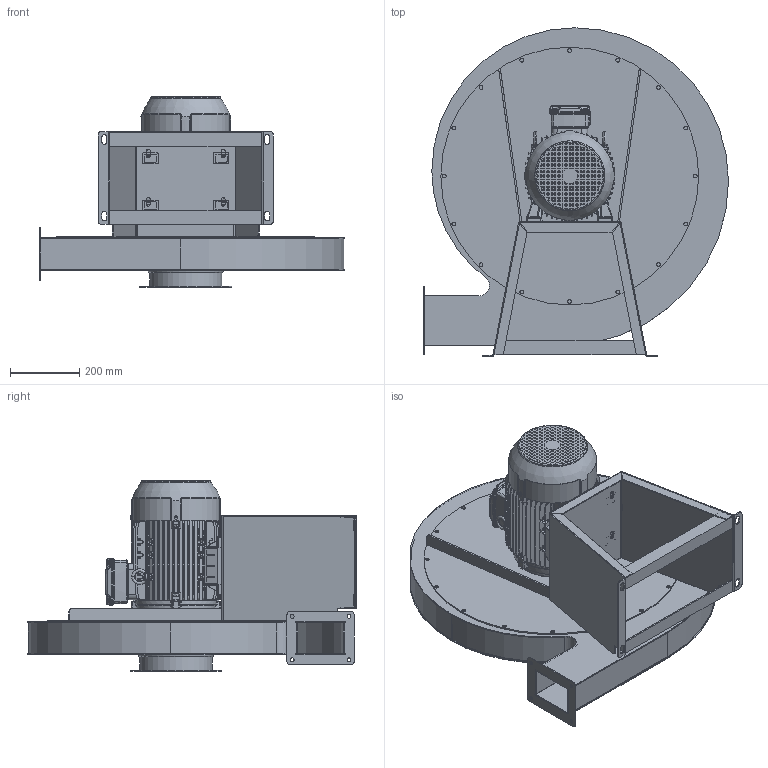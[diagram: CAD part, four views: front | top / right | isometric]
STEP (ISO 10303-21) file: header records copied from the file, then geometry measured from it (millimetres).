
FILE_DESCRIPTION((''),'2;1');
FILE_NAME('X:\CAD_3D\VENTILATORI DI SERIE\H\H70\H70 - 132 - RD270.stp','2016-10-11T15:20:05',('tecnico'),(''),'Autodesk Inventor 2012','Autodesk Inventor 2012','');
FILE_SCHEMA(('CONFIG_CONTROL_DESIGN'));
Length unit declared in the file: millimetre
Products named in the file (13): H70 - 132 - LG270; C1H70L; FB20873100; FH700A1; FH700M1; SQ1H700; CL1H7012; FL1H700; D172408016; SE1H700132; 132S_TOP; AN40404436; PT355445
Assembly tree (14 placements, depth 3):
  H70 - 132 - LG270
    C1H70L
      FB20873100
      FH700A1
      FH700M1
      SQ1H700
    CL1H7012
    FL1H700
    D172408016
    SE1H700132
    132S_TOP
    AN40404436  x2
    PT355445  x2
Bounding box: 880 x 948 x 551 mm (x, y, z)
Volume: 25784735.9 mm3; surface area: 5191697.8 mm2
Topology: 14 solids, 14 shells, 3716 faces, 9882 edges, 6478 vertices
Faces by surface type: plane 2599, cylinder 481, bspline 231, torus 195, cone 160, sphere 50
Full cylindrical faces by diameter (mm): 6 x2, 8 x18, 9.5 x3, 10.5 x4, 11 x26, 11.6 x4, 12 x4, 37.4 x1, 38 x1, 39.95 x1, 49.95 x1, 55 x1, 80 x1, 90 x1, 201 x1, 205 x1, 208 x2, 208.5 x2, 230 x1, 265 x1, 706 x1, 744 x1
Entity records: 212178 total; most frequent: CARTESIAN_POINT 120019, ORIENTED_EDGE 19406, DIRECTION 18211, EDGE_CURVE 9703, VECTOR 6887, LINE 6887, VERTEX_POINT 6424, AXIS2_PLACEMENT_3D 5662
